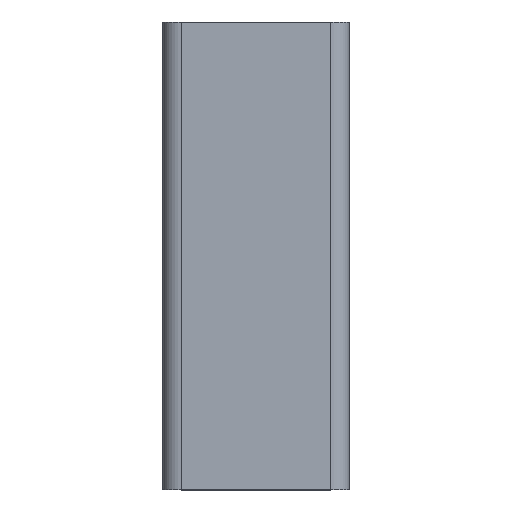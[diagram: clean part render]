
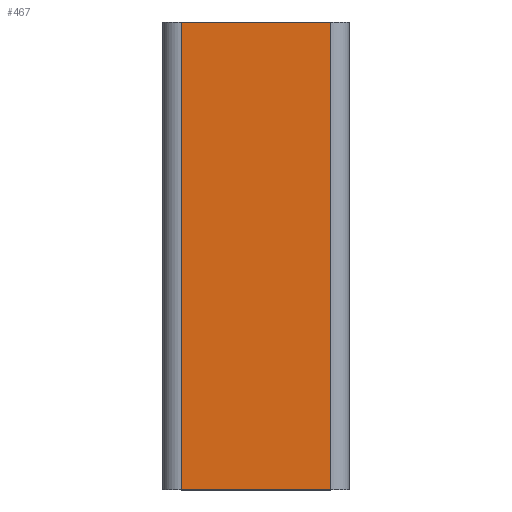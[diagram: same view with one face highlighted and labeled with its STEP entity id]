
A CAD part, top view. The second image highlights one B-rep face of the part: STEP entity #467.
In plain terms, the highlighted planar face has unit normal (0, 0, 1).
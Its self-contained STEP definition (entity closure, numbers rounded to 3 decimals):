
#467=ADVANCED_FACE('',(#941),#942,.T.);
#941=FACE_OUTER_BOUND('',#1419,.T.);
#942=PLANE('',#1420);
#1419=EDGE_LOOP('',(#2755,#2756,#2757,#2758));
#1420=AXIS2_PLACEMENT_3D('',#2759,#2760,#2761);
#2755=ORIENTED_EDGE('',*,*,#3543,.T.);
#2756=ORIENTED_EDGE('',*,*,#3544,.F.);
#2757=ORIENTED_EDGE('',*,*,#3413,.T.);
#2758=ORIENTED_EDGE('',*,*,#3541,.T.);
#2759=CARTESIAN_POINT('',(0.0,50.0,20.0));
#2760=DIRECTION('',(0.0,0.0,1.0));
#2761=DIRECTION('',(-1.0,0.0,0.0));
#3413=EDGE_CURVE('',#4246,#4244,#4247,.T.);
#3541=EDGE_CURVE('',#4244,#4438,#4440,.T.);
#3543=EDGE_CURVE('',#4438,#4442,#4443,.T.);
#3544=EDGE_CURVE('',#4246,#4442,#4444,.T.);
#4244=VERTEX_POINT('',#5368);
#4246=VERTEX_POINT('',#5370);
#4247=LINE('',#5371,#5372);
#4438=VERTEX_POINT('',#5627);
#4440=LINE('',#5629,#5630);
#4442=VERTEX_POINT('',#5632);
#4443=LINE('',#5633,#5634);
#4444=LINE('',#5635,#5636);
#5368=CARTESIAN_POINT('',(-16.0,50.0,20.0));
#5370=CARTESIAN_POINT('',(16.0,50.0,20.0));
#5371=CARTESIAN_POINT('',(16.0,50.0,20.0));
#5372=VECTOR('',#6244,1.0);
#5627=CARTESIAN_POINT('',(-16.0,-50.0,20.0));
#5629=CARTESIAN_POINT('',(-16.0,50.0,20.0));
#5630=VECTOR('',#6405,1.0);
#5632=CARTESIAN_POINT('',(16.0,-50.0,20.0));
#5633=CARTESIAN_POINT('',(16.0,-50.0,20.0));
#5634=VECTOR('',#6406,1.0);
#5635=CARTESIAN_POINT('',(16.0,50.0,20.0));
#5636=VECTOR('',#6407,1.0);
#6244=DIRECTION('',(-1.0,0.0,0.0));
#6405=DIRECTION('',(0.0,-1.0,0.0));
#6406=DIRECTION('',(1.0,0.0,0.0));
#6407=DIRECTION('',(0.0,-1.0,0.0));
